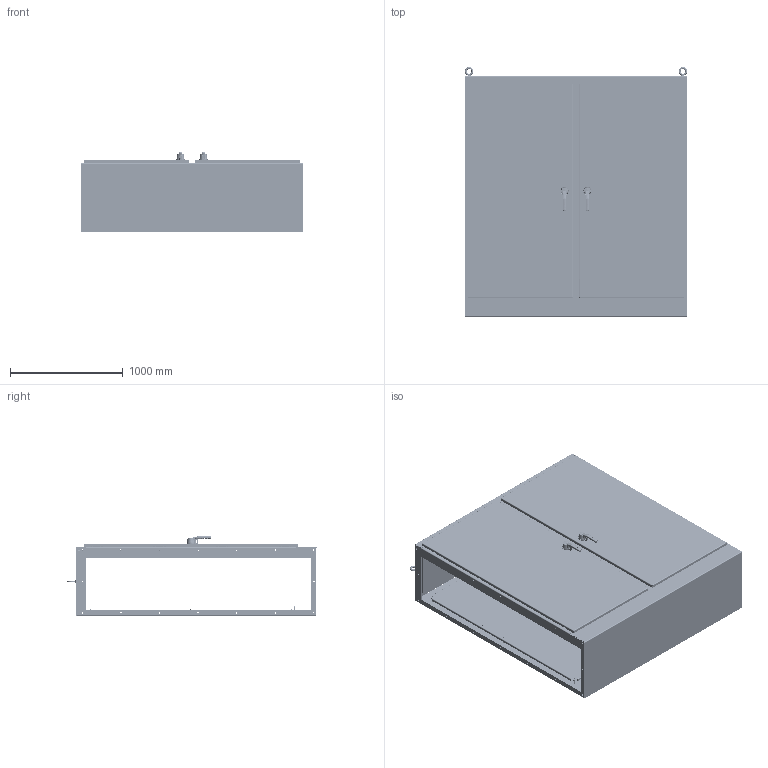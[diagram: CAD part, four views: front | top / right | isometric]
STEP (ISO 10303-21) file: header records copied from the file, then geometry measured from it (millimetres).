
FILE_DESCRIPTION (( 'STEP AP203' ), '1' );
FILE_NAME ('amod847724ftc.STEP', '2012-12-03T20:09:53', ( 'User' ), ( 'Pentair Inc' ), 'SwSTEP 2.0', 'SolidWorks 2010', '' );
FILE_SCHEMA (( 'CONFIG_CONTROL_DESIGN' ));
Products named in the file (98): 22112001_AFTER WELD; 99401759; 89086920; 89086916; 89086186; 24110001; 23418001; 22318001; 27439102_Closed; 27438002; 89086631; 89086627; 89094239; 99404177_Config-Drawing; 99401225_Config-Drawing; 89085464_60127101; 89086636; 87956539; 87922656; 26274019_26274019; 26273019_26273019; 27115001; 26118002_26118002; 27439103_Closed; 27438001; 27439002_27439002; 89075576; 27150001; 27156001; 27151001; 27155001; 99401300_99401300; 35130001_SI-HHMS 0.25-28x0.375x0.375-N; 89087372_35124003; 87544899; 22101014; 35131001_35131001; 30131005; 99417124; 30185002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
Assembly tree (199 placements, depth 5):
  amod847724ftc
    89085489  x8
      60127135_Installed postion
      87790201_87790201
      89085847
      60127199_60127199
    87790199  x8
    30101003  x2
    91307073
      30229002
      11258082  x2
      30106005  x2
      30132001
      30176001_EXTENDED .81  x2
    30175001
    89093950
      26108002  x2
      87932883  x2
      89093914
        89093910
        99404177_Config-Drawing  x2
      30264001  x2
      89093906
        11258024_11258024
        22112001_AFTER WELD
        89093902
      89086618
        11158974  x2
        11158976  x2
        11158977  x8
        99404177_Config-Drawing  x4
        11158975  x2
        89086623
        89085504
      89093944
        99404397_AFTER WELD  x10
        89093954
        89093926
          89093920
        11258826  x2
        87924697  x2
        89093938
          89093932
          99404177_Config-Drawing  x2
      99415273_Hex Nut  x2
      30251002
        99401759
        30251001
        22112001_AFTER WELD
    30131005
    99417122
      22318002
      22101003  x2
      30184002
        89073390
        99401591_As Installed
        99401586
      30252001
    89086631
      35130001_SI-HHMS 0.25-28x0.375x0.375-N  x2
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Bounding box: 1981.2 x 2219.45 x 710.15 mm (x, y, z)
Volume: 54480210.8 mm3; surface area: 35186230.2 mm2
Topology: 229 solids, 229 shells, 13215 faces, 31791 edges, 19168 vertices
Faces by surface type: plane 5345, cylinder 3969, bspline 1849, cone 1076, torus 795, sphere 181
Entity records: 248387 total; most frequent: CARTESIAN_POINT 108715, ORIENTED_EDGE 27516, DIRECTION 24610, EDGE_CURVE 13758, AXIS2_PLACEMENT_3D 8988, VERTEX_POINT 8408, VECTOR 6634, LINE 6634
